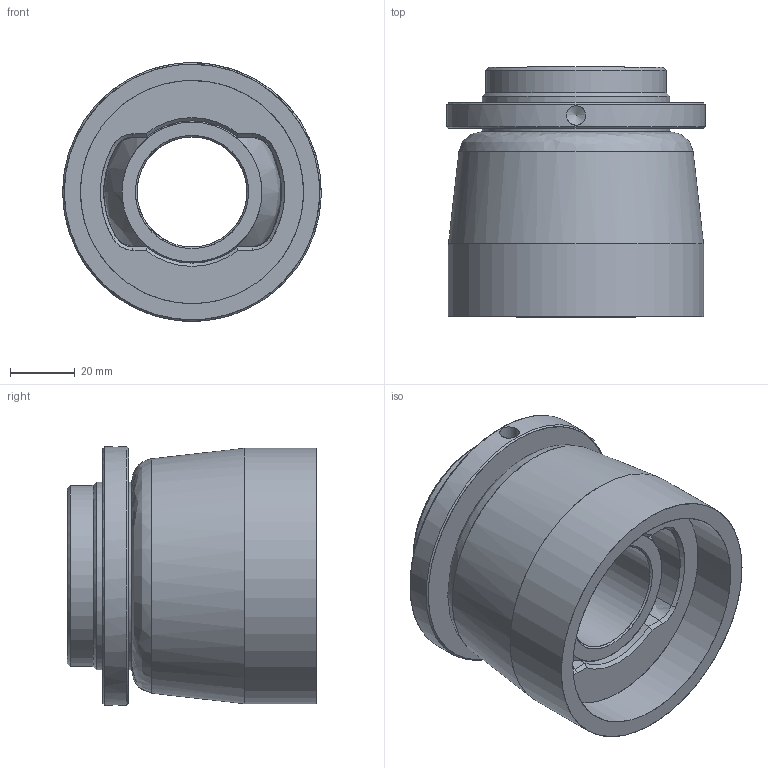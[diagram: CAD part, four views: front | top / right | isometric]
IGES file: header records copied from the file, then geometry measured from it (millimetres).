
Start section: Missler Software 3 rue Hermes, EUROPARC, 31520 Ramonville-Saint-Agne, France Tel   : +33 (0)5 61 00 03 00 Fax   : +33 (0)5 61 00 03 03 Email : sup.solid@topsolid.com
Global section: file name: Z:\J\Jp3\Palier\Palier-type1\3D TopSolid 2011\Serie 10.xx.xx\10.14.xx\10.14.03.igs; native system: TopSolid v611200 Missler Software; preprocessor: IGES preprocessor v100000; author: TAPIN; date: 120223.142406; units: millimetre
Bounding box: 79.99 x 77.23 x 80 mm (x, y, z)
Surface area: 72583.8 mm2 (no closed solid volume)
Topology: 0 solids, 0 shells, 67 faces, 1065 edges, 1042 vertices
Faces by surface type: bspline 67
